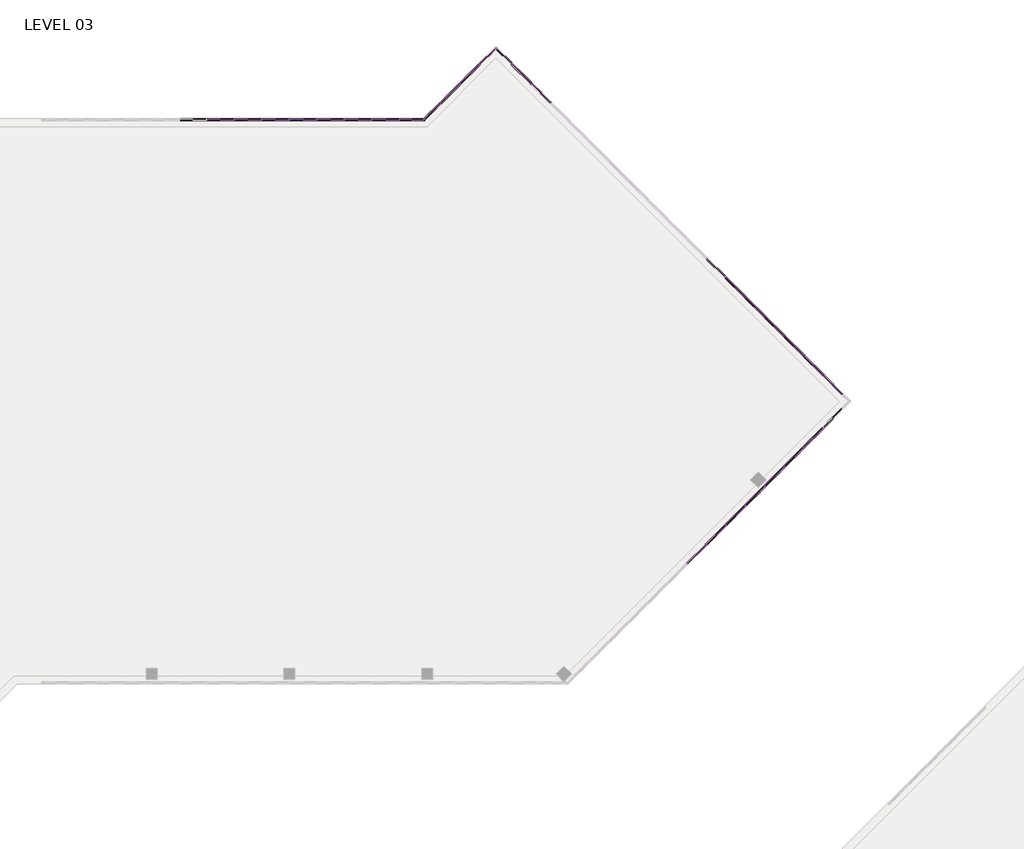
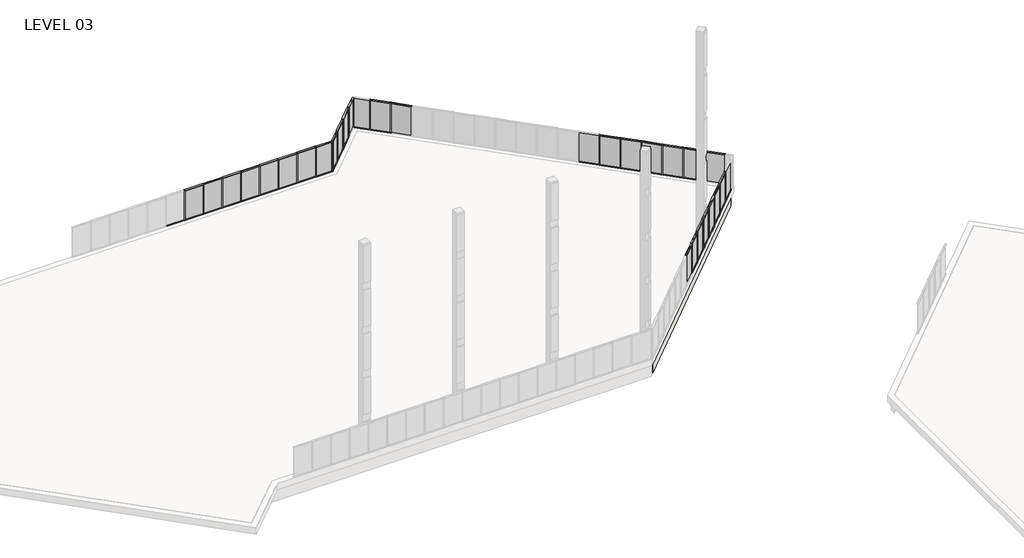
# One storey, part 15 of 18: 82 members, 30 plates, 2 walls.
"""IFC4 building model written with IfcOpenShell, lengths in millimetres."""

from ifc_helpers import new_model, si_unit, origin, place, context, project, spatial, faceted_brep, transform, mapped, element, save
from components import member_5247f267, member_e44af9ab, member_800970d4, member_45eb7f2e, member_53409b32, member_43bac76b, member_0b71a88d, plate_67294edd, plate_048e4634, plate_aaac5d3d, plate_9c66726c, plate_e0fd5134, plate_62af1d3c, plate_903242d9, plate_0d1907f3, plate_15429445

model = new_model("IFC4")

# Units and contexts
model_context = context("Model", 3, world=origin())
ifc_project = project(units=[si_unit("LENGTHUNIT", "METRE", prefix="MILLI")], contexts=[model_context])

# Site, building, storey
site = spatial("IfcSite", under=ifc_project)
building = spatial("IfcBuilding", under=site)
storey = spatial("IfcBuildingStorey", under=building, Name="LEVEL 03", Elevation=8280.4)

# Members
placement = place(None, origin())
member_shape = member_5247f267(model_context)
element("IfcMember", 1, ObjectType="Rectangular Mullion : 2\" x 4.5\" rectangular", at=placement, inside=storey, context=model_context, shape_type="MappedRepresentation", body=[
    mapped(member_shape, transform((56719.8907816, 96634.0369509, 8280.4), x_axis=(0.0, 0.0, -1.0), y_axis=(0.7071067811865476, -0.7071067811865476, 0.0), z_axis=(-0.7071067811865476, -0.7071067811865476, 0.0))),
])
element("IfcMember", 2, ObjectType="Rectangular Mullion : 2\" x 4.5\" rectangular", at=placement, inside=storey, context=model_context, shape_type="MappedRepresentation", body=[
    mapped(member_shape, transform((57797.5067145, 97711.6528837, 8280.4), x_axis=(0.0, 0.0, -1.0), y_axis=(0.7071067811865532, -0.7071067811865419, 0.0), z_axis=(-0.7071067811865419, -0.7071067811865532, 0.0))),
])
element("IfcMember", 3, ObjectType="Rectangular Mullion : 2\" x 4.5\" rectangular", at=placement, inside=storey, context=model_context, shape_type="MappedRepresentation", body=[
    mapped(member_shape, transform((58875.1226473, 98789.2688165, 8280.4), x_axis=(0.0, 0.0, -1.0), y_axis=(0.7071067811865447, -0.7071067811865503, 0.0), z_axis=(-0.7071067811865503, -0.7071067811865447, 0.0))),
])
element("IfcMember", 4, ObjectType="Rectangular Mullion : 2\" x 4.5\" rectangular", at=placement, inside=storey, context=model_context, shape_type="MappedRepresentation", body=[
    mapped(member_shape, transform((61030.3693146, 100944.5154839, 8280.4), x_axis=(0.0, 0.0, -1.0), y_axis=(0.7071067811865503, -0.7071067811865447, 0.0), z_axis=(-0.7071067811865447, -0.7071067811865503, 0.0))),
])
element("IfcMember", 5, ObjectType="Rectangular Mullion : 2\" x 4.5\" rectangular", at=placement, inside=storey, context=model_context, shape_type="MappedRepresentation", body=[
    mapped(member_shape, transform((62072.0790246, 107097.5294159, 8280.4), x_axis=(0.0, 0.0, -1.0), y_axis=(0.7071067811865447, 0.7071067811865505, 0.0), z_axis=(0.7071067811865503, -0.7071067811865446, 0.0))),
])
element("IfcMember", 6, ObjectType="Rectangular Mullion : 2\" x 4.5\" rectangular", at=placement, inside=storey, context=model_context, shape_type="MappedRepresentation", body=[
    mapped(member_shape, transform((60994.4482901, 108175.1601505, 8280.4), x_axis=(0.0, 0.0, -1.0), y_axis=(0.7071067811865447, 0.7071067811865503, 0.0), z_axis=(0.7071067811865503, -0.7071067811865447, 0.0))),
])
element("IfcMember", 7, ObjectType="Rectangular Mullion : 2\" x 4.5\" rectangular", at=placement, inside=storey, context=model_context, shape_type="MappedRepresentation", body=[
    mapped(member_shape, transform((58839.2225556, 110330.385885, 8280.4), x_axis=(0.0, 0.0, -1.0), y_axis=(0.7071067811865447, 0.7071067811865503, 0.0), z_axis=(0.7071067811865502, -0.7071067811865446, 0.0))),
])
element("IfcMember", 8, ObjectType="Rectangular Mullion : 2\" x 4.5\" rectangular", at=placement, inside=storey, context=model_context, shape_type="MappedRepresentation", body=[
    mapped(member_shape, transform((57761.6275556, 111407.980885, 8280.4), x_axis=(0.0, 0.0, -1.0), y_axis=(0.7071067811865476, 0.7071067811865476, 0.0), z_axis=(0.7071067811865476, -0.7071067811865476, 0.0))),
])
element("IfcMember", 9, ObjectType="Rectangular Mullion : 2\" x 4.5\" rectangular", at=placement, inside=storey, context=model_context, shape_type="MappedRepresentation", body=[
    mapped(member_shape, transform((43059.572889, 122097.2813296, 8280.4), x_axis=(0.0, 0.0, -1.0), y_axis=(-0.7071067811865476, 0.7071067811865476, 0.0), z_axis=(0.7071067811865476, 0.7071067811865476, 0.0))),
])
element("IfcMember", 10, ObjectType="Rectangular Mullion : 2\" x 4.5\" rectangular", at=placement, inside=storey, context=model_context, shape_type="MappedRepresentation", body=[
    mapped(member_shape, transform((39706.55, 120127.9523049, 8280.4), x_axis=(0.0, 0.0, -1.0), y_axis=(0.0, 1.0, 0.0), z_axis=(1.0, 0.0, 0.0))),
])
element("IfcMember", 11, ObjectType="Rectangular Mullion : 2\" x 4.5\" rectangular", at=placement, inside=storey, context=model_context, shape_type="MappedRepresentation", body=[
    mapped(member_shape, transform((38182.55, 120127.9523049, 8280.4), x_axis=(0.0, 0.0, -1.0), y_axis=(0.0, 1.0, 0.0), z_axis=(1.0, 0.0, 0.0))),
])
element("IfcMember", 12, ObjectType="Rectangular Mullion : 2\" x 4.5\" rectangular", at=placement, inside=storey, context=model_context, shape_type="MappedRepresentation", body=[
    mapped(member_shape, transform((36658.55, 120127.9523049, 8280.4), x_axis=(0.0, 0.0, -1.0), y_axis=(0.0, 1.0, 0.0), z_axis=(1.0, 0.0, 0.0))),
])
element("IfcMember", 13, ObjectType="Rectangular Mullion : 2\" x 4.5\" rectangular", at=placement, inside=storey, context=model_context, shape_type="MappedRepresentation", body=[
    mapped(member_shape, transform((30562.55, 120127.9523049, 8280.4), x_axis=(0.0, 0.0, -1.0), y_axis=(0.0, 1.0, 0.0), z_axis=(1.0, 0.0, 0.0))),
])
element("IfcMember", 14, ObjectType="Rectangular Mullion : 2\" x 4.5\" rectangular", at=placement, inside=storey, context=model_context, shape_type="MappedRepresentation", body=[
    mapped(member_shape, transform((29038.55, 120127.9523049, 8280.4), x_axis=(0.0, 0.0, -1.0), y_axis=(0.0, 1.0, 0.0), z_axis=(1.0, 0.0, 0.0))),
])
element("IfcMember", 15, ObjectType="Rectangular Mullion : 2\" x 4.5\" rectangular", at=placement, inside=storey, context=model_context, shape_type="MappedRepresentation", body=[
    mapped(member_shape, transform((35134.55, 120127.9523049, 8280.4), x_axis=(0.0, 0.0, -1.0), y_axis=(0.0, 1.0, 0.0), z_axis=(1.0, 0.0, 0.0))),
])
element("IfcMember", 16, ObjectType="Rectangular Mullion : 2\" x 4.5\" rectangular", at=placement, inside=storey, context=model_context, shape_type="MappedRepresentation", body=[
    mapped(member_shape, transform((32086.55, 120127.9523049, 8280.4), x_axis=(0.0, 0.0, -1.0), y_axis=(0.0, 1.0, 0.0), z_axis=(1.0, 0.0, 0.0))),
])
element("IfcMember", 17, ObjectType="Rectangular Mullion : 2\" x 4.5\" rectangular", at=placement, inside=storey, context=model_context, shape_type="MappedRepresentation", body=[
    mapped(member_shape, transform((33610.55, 120127.9523049, 8280.4), x_axis=(0.0, 0.0, -1.0), y_axis=(0.0, 1.0, 0.0), z_axis=(1.0, 0.0, 0.0))),
])
element("IfcMember", 18, ObjectType="Rectangular Mullion : 2\" x 4.5\" rectangular", at=placement, inside=storey, context=model_context, shape_type="MappedRepresentation", body=[
    mapped(member_shape, transform((59952.7459809, 99866.8921502, 8280.4), x_axis=(0.0, 0.0, -1.0), y_axis=(0.7071067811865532, -0.7071067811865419, 0.0), z_axis=(-0.7071067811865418, -0.7071067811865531, 0.0))),
])
element("IfcMember", 19, ObjectType="Rectangular Mullion : 2\" x 4.5\" rectangular", at=placement, inside=storey, context=model_context, shape_type="MappedRepresentation", body=[
    mapped(member_shape, transform((62108.0000491, 102022.1462184, 8280.4), x_axis=(0.0, 0.0, -1.0), y_axis=(0.7071067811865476, -0.7071067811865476, 0.0), z_axis=(-0.7071067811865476, -0.7071067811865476, 0.0))),
])
element("IfcMember", 20, ObjectType="Rectangular Mullion : 2\" x 4.5\" rectangular", at=placement, inside=storey, context=model_context, shape_type="MappedRepresentation", body=[
    mapped(member_shape, transform((63185.6307836, 103099.7769529, 8280.4), x_axis=(0.0, 0.0, -1.0), y_axis=(0.7071067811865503, -0.7071067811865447, 0.0), z_axis=(-0.7071067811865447, -0.7071067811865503, 0.0))),
])
element("IfcMember", 21, ObjectType="Rectangular Mullion : 2\" x 4.5\" rectangular", at=placement, inside=storey, context=model_context, shape_type="MappedRepresentation", body=[
    mapped(member_shape, transform((63149.7097592, 106019.8986814, 8280.4), x_axis=(0.0, 0.0, -1.0), y_axis=(0.7071067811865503, 0.7071067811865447, 0.0), z_axis=(0.7071067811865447, -0.7071067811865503, 0.0))),
])
element("IfcMember", 22, ObjectType="Rectangular Mullion : 2\" x 4.5\" rectangular", at=placement, inside=storey, context=model_context, shape_type="MappedRepresentation", body=[
    mapped(member_shape, transform((59916.8354228, 109252.7730177, 8280.4), x_axis=(0.0, 0.0, -1.0), y_axis=(0.7071067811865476, 0.7071067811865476, 0.0), z_axis=(0.7071067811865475, -0.7071067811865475, 0.0))),
])
element("IfcMember", 23, ObjectType="Rectangular Mullion : 2\" x 4.5\" rectangular", at=placement, inside=storey, context=model_context, shape_type="MappedRepresentation", body=[
    mapped(member_shape, transform((47009.3767128, 122160.2317277, 8280.4), x_axis=(0.0, 0.0, -1.0), y_axis=(0.7071067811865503, 0.7071067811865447, 0.0), z_axis=(0.7071067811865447, -0.7071067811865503, 0.0))),
])
element("IfcMember", 24, ObjectType="Rectangular Mullion : 2\" x 4.5\" rectangular", at=placement, inside=storey, context=model_context, shape_type="MappedRepresentation", body=[
    mapped(member_shape, transform((44137.2036235, 123174.9120641, 8280.4), x_axis=(0.0, 0.0, -1.0), y_axis=(-0.7071067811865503, 0.7071067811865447, 0.0), z_axis=(0.7071067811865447, 0.7071067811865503, 0.0))),
])
element("IfcMember", 25, ObjectType="Rectangular Mullion : 2\" x 4.5\" rectangular", at=placement, inside=storey, context=model_context, shape_type="MappedRepresentation", body=[
    mapped(member_shape, transform((56683.9697572, 96598.1159265, 10871.2), x_axis=(0.0, 0.0, 1.0), y_axis=(0.7071067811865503, -0.7071067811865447, 0.0), z_axis=(0.7071067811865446, 0.7071067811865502, 0.0))),
])
element("IfcMember", 26, ObjectType="Rectangular Mullion : 2\" x 4.5\" rectangular", at=placement, inside=storey, context=model_context, shape_type="MappedRepresentation", body=[
    mapped(member_shape, transform((57761.58569, 97675.7318593, 10871.2), x_axis=(0.0, 0.0, 1.0), y_axis=(0.7071067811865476, -0.7071067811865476, 0.0), z_axis=(0.7071067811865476, 0.7071067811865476, 0.0))),
])
element("IfcMember", 27, ObjectType="Rectangular Mullion : 2\" x 4.5\" rectangular", at=placement, inside=storey, context=model_context, shape_type="MappedRepresentation", body=[
    mapped(member_shape, transform((58839.2016228, 98753.3477921, 10871.2), x_axis=(0.0, 0.0, 1.0), y_axis=(0.7071067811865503, -0.7071067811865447, 0.0), z_axis=(0.7071067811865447, 0.7071067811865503, 0.0))),
])
element("IfcMember", 28, ObjectType="Rectangular Mullion : 2\" x 4.5\" rectangular", at=placement, inside=storey, context=model_context, shape_type="MappedRepresentation", body=[
    mapped(member_shape, transform((60994.4482901, 100908.5944594, 10871.2), x_axis=(0.0, 0.0, 1.0), y_axis=(0.7071067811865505, -0.7071067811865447, 0.0), z_axis=(0.7071067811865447, 0.7071067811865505, 0.0))),
])
element("IfcMember", 29, ObjectType="Rectangular Mullion : 2\" x 4.5\" rectangular", at=placement, inside=storey, context=model_context, shape_type="MappedRepresentation", body=[
    mapped(member_shape, transform((62108.0000491, 107061.6083914, 10871.2), x_axis=(0.0, 0.0, 1.0), y_axis=(0.7071067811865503, 0.7071067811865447, 0.0), z_axis=(-0.7071067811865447, 0.7071067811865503, 0.0))),
])
element("IfcMember", 30, ObjectType="Rectangular Mullion : 2\" x 4.5\" rectangular", at=placement, inside=storey, context=model_context, shape_type="MappedRepresentation", body=[
    mapped(member_shape, transform((61030.3693146, 108139.239126, 10871.2), x_axis=(0.0, 0.0, 1.0), y_axis=(0.7071067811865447, 0.7071067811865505, 0.0), z_axis=(-0.7071067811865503, 0.7071067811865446, 0.0))),
])
element("IfcMember", 31, ObjectType="Rectangular Mullion : 2\" x 4.5\" rectangular", at=placement, inside=storey, context=model_context, shape_type="MappedRepresentation", body=[
    mapped(member_shape, transform((58875.1435801, 110294.4648605, 10871.2), x_axis=(0.0, 0.0, 1.0), y_axis=(0.7071067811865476, 0.7071067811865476, 0.0), z_axis=(-0.7071067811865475, 0.7071067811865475, 0.0))),
])
element("IfcMember", 32, ObjectType="Rectangular Mullion : 2\" x 4.5\" rectangular", at=placement, inside=storey, context=model_context, shape_type="MappedRepresentation", body=[
    mapped(member_shape, transform((57797.5485801, 111372.0598605, 10871.2), x_axis=(0.0, 0.0, 1.0), y_axis=(0.7071067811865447, 0.7071067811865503, 0.0), z_axis=(-0.7071067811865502, 0.7071067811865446, 0.0))),
])
element("IfcMember", 33, ObjectType="Rectangular Mullion : 2\" x 4.5\" rectangular", at=placement, inside=storey, context=model_context, shape_type="MappedRepresentation", body=[
    mapped(member_shape, transform((43095.4939135, 122133.202354, 10871.2), x_axis=(0.0, 0.0, 1.0), y_axis=(-0.7071067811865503, 0.7071067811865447, 0.0), z_axis=(-0.7071067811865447, -0.7071067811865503, 0.0))),
])
element("IfcMember", 34, ObjectType="Rectangular Mullion : 2\" x 4.5\" rectangular", at=placement, inside=storey, context=model_context, shape_type="MappedRepresentation", body=[
    mapped(member_shape, transform((42017.863179, 121055.5716195, 10871.2), x_axis=(0.0, 0.0, 1.0), y_axis=(-0.7071067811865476, 0.7071067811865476, 0.0), z_axis=(-0.7071067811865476, -0.7071067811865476, 0.0))),
])
element("IfcMember", 35, ObjectType="Rectangular Mullion : 2\" x 4.5\" rectangular", at=placement, inside=storey, context=model_context, shape_type="MappedRepresentation", body=[
    mapped(member_shape, transform((38233.35, 120127.9523049, 10871.2), x_axis=(0.0, 0.0, 1.0), y_axis=(0.0, 1.0, 0.0), z_axis=(-1.0, 0.0, 0.0))),
])
element("IfcMember", 36, ObjectType="Rectangular Mullion : 2\" x 4.5\" rectangular", at=placement, inside=storey, context=model_context, shape_type="MappedRepresentation", body=[
    mapped(member_shape, transform((36709.35, 120127.9523049, 10871.2), x_axis=(0.0, 0.0, 1.0), y_axis=(0.0, 1.0, 0.0), z_axis=(-1.0, 0.0, 0.0))),
])
element("IfcMember", 37, ObjectType="Rectangular Mullion : 2\" x 4.5\" rectangular", at=placement, inside=storey, context=model_context, shape_type="MappedRepresentation", body=[
    mapped(member_shape, transform((30613.35, 120127.9523049, 10871.2), x_axis=(0.0, 0.0, 1.0), y_axis=(0.0, 1.0, 0.0), z_axis=(-1.0, 0.0, 0.0))),
])
element("IfcMember", 38, ObjectType="Rectangular Mullion : 2\" x 4.5\" rectangular", at=placement, inside=storey, context=model_context, shape_type="MappedRepresentation", body=[
    mapped(member_shape, transform((29089.35, 120127.9523049, 10871.2), x_axis=(0.0, 0.0, 1.0), y_axis=(0.0, 1.0, 0.0), z_axis=(-1.0, 0.0, 0.0))),
])
element("IfcMember", 39, ObjectType="Rectangular Mullion : 2\" x 4.5\" rectangular", at=placement, inside=storey, context=model_context, shape_type="MappedRepresentation", body=[
    mapped(member_shape, transform((35185.35, 120127.9523049, 10871.2), x_axis=(0.0, 0.0, 1.0), y_axis=(0.0, 1.0, 0.0), z_axis=(-1.0, 0.0, 0.0))),
])
element("IfcMember", 40, ObjectType="Rectangular Mullion : 2\" x 4.5\" rectangular", at=placement, inside=storey, context=model_context, shape_type="MappedRepresentation", body=[
    mapped(member_shape, transform((32137.35, 120127.9523049, 10871.2), x_axis=(0.0, 0.0, 1.0), y_axis=(0.0, 1.0, 0.0), z_axis=(-1.0, 0.0, 0.0))),
])
element("IfcMember", 41, ObjectType="Rectangular Mullion : 2\" x 4.5\" rectangular", at=placement, inside=storey, context=model_context, shape_type="MappedRepresentation", body=[
    mapped(member_shape, transform((33661.35, 120127.9523049, 10871.2), x_axis=(0.0, 0.0, 1.0), y_axis=(0.0, 1.0, 0.0), z_axis=(-1.0, 0.0, 0.0))),
])
element("IfcMember", 42, ObjectType="Rectangular Mullion : 2\" x 4.5\" rectangular", at=placement, inside=storey, context=model_context, shape_type="MappedRepresentation", body=[
    mapped(member_shape, transform((59916.8249564, 99830.9711257, 10871.2), x_axis=(0.0, 0.0, 1.0), y_axis=(0.7071067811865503, -0.7071067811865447, 0.0), z_axis=(0.7071067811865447, 0.7071067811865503, 0.0))),
])
element("IfcMember", 43, ObjectType="Rectangular Mullion : 2\" x 4.5\" rectangular", at=placement, inside=storey, context=model_context, shape_type="MappedRepresentation", body=[
    mapped(member_shape, transform((62072.0790246, 101986.2251939, 10871.2), x_axis=(0.0, 0.0, 1.0), y_axis=(0.7071067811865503, -0.7071067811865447, 0.0), z_axis=(0.7071067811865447, 0.7071067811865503, 0.0))),
])
element("IfcMember", 44, ObjectType="Rectangular Mullion : 2\" x 4.5\" rectangular", at=placement, inside=storey, context=model_context, shape_type="MappedRepresentation", body=[
    mapped(member_shape, transform((63149.7097592, 103063.8559285, 10871.2), x_axis=(0.0, 0.0, 1.0), y_axis=(0.7071067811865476, -0.7071067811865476, 0.0), z_axis=(0.7071067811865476, 0.7071067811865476, 0.0))),
])
element("IfcMember", 45, ObjectType="Rectangular Mullion : 2\" x 4.5\" rectangular", at=placement, inside=storey, context=model_context, shape_type="MappedRepresentation", body=[
    mapped(member_shape, transform((63185.6307836, 105983.9776569, 10871.2), x_axis=(0.0, 0.0, 1.0), y_axis=(0.7071067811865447, 0.7071067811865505, 0.0), z_axis=(-0.7071067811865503, 0.7071067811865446, 0.0))),
])
element("IfcMember", 46, ObjectType="Rectangular Mullion : 2\" x 4.5\" rectangular", at=placement, inside=storey, context=model_context, shape_type="MappedRepresentation", body=[
    mapped(member_shape, transform((59952.7564473, 109216.8519932, 10871.2), x_axis=(0.0, 0.0, 1.0), y_axis=(0.7071067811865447, 0.7071067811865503, 0.0), z_axis=(-0.7071067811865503, 0.7071067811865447, 0.0))),
])
element("IfcMember", 47, ObjectType="Rectangular Mullion : 2\" x 4.5\" rectangular", at=placement, inside=storey, context=model_context, shape_type="MappedRepresentation", body=[
    mapped(member_shape, transform((47045.2977373, 122124.3107033, 10871.2), x_axis=(0.0, 0.0, 1.0), y_axis=(0.7071067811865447, 0.7071067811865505, 0.0), z_axis=(-0.7071067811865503, 0.7071067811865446, 0.0))),
])
element("IfcMember", 48, ObjectType="Rectangular Mullion : 2\" x 4.5\" rectangular", at=placement, inside=storey, context=model_context, shape_type="MappedRepresentation", body=[
    mapped(member_shape, transform((45967.6670028, 123201.9414378, 10871.2), x_axis=(0.0, 0.0, 1.0), y_axis=(0.7071067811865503, 0.7071067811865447, 0.0), z_axis=(-0.7071067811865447, 0.7071067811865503, 0.0))),
])
member_2_shape = member_e44af9ab(model_context)
element("IfcMember", 49, ObjectType="Rectangular Mullion : 2\" x 4.5\" rectangular", at=placement, inside=storey, context=model_context, shape_type="MappedRepresentation", body=[
    mapped(member_2_shape, transform((56701.9302694, 96616.0764387, 8280.4), x_axis=(0.7071067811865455, 0.7071067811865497, 0.0), y_axis=(0.7071067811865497, -0.7071067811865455, 0.0), z_axis=(0.0, 0.0, -1.0))),
])
element("IfcMember", 50, ObjectType="Rectangular Mullion : 2\" x 4.5\" rectangular", at=placement, inside=storey, context=model_context, shape_type="MappedRepresentation", body=[
    mapped(member_2_shape, transform((57779.5462022, 97693.6923715, 8280.4), x_axis=(0.7071067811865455, 0.7071067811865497, 0.0), y_axis=(0.7071067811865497, -0.7071067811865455, 0.0), z_axis=(0.0, 0.0, -1.0))),
])
element("IfcMember", 51, ObjectType="Rectangular Mullion : 2\" x 4.5\" rectangular", at=placement, inside=storey, context=model_context, shape_type="MappedRepresentation", body=[
    mapped(member_2_shape, transform((58857.162135, 98771.3083043, 8280.4), x_axis=(0.7071067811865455, 0.7071067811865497, 0.0), y_axis=(0.7071067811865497, -0.7071067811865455, 0.0), z_axis=(0.0, 0.0, -1.0))),
])
element("IfcMember", 52, ObjectType="Rectangular Mullion : 2\" x 4.5\" rectangular", at=placement, inside=storey, context=model_context, shape_type="MappedRepresentation", body=[
    mapped(member_2_shape, transform((61012.4088023, 100926.5549716, 8280.4), x_axis=(0.7071067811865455, 0.7071067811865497, 0.0), y_axis=(0.7071067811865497, -0.7071067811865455, 0.0), z_axis=(0.0, 0.0, -1.0))),
])
element("IfcMember", 53, ObjectType="Rectangular Mullion : 2\" x 4.5\" rectangular", at=placement, inside=storey, context=model_context, shape_type="MappedRepresentation", body=[
    mapped(member_2_shape, transform((62090.0395369, 107079.5689037, 8280.4), x_axis=(-0.7071067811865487, 0.7071067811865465, 0.0), y_axis=(0.7071067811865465, 0.7071067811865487, 0.0), z_axis=(0.0, 0.0, -1.0))),
])
element("IfcMember", 54, ObjectType="Rectangular Mullion : 2\" x 4.5\" rectangular", at=placement, inside=storey, context=model_context, shape_type="MappedRepresentation", body=[
    mapped(member_2_shape, transform((61012.4088023, 108157.1996382, 8280.4), x_axis=(-0.7071067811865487, 0.7071067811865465, 0.0), y_axis=(0.7071067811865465, 0.7071067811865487, 0.0), z_axis=(0.0, 0.0, -1.0))),
])
element("IfcMember", 55, ObjectType="Rectangular Mullion : 2\" x 4.5\" rectangular", at=placement, inside=storey, context=model_context, shape_type="MappedRepresentation", body=[
    mapped(member_2_shape, transform((58857.1830678, 110312.4253727, 8280.4), x_axis=(-0.7071067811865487, 0.7071067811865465, 0.0), y_axis=(0.7071067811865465, 0.7071067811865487, 0.0), z_axis=(0.0, 0.0, -1.0))),
])
element("IfcMember", 56, ObjectType="Rectangular Mullion : 2\" x 4.5\" rectangular", at=placement, inside=storey, context=model_context, shape_type="MappedRepresentation", body=[
    mapped(member_2_shape, transform((57779.5880678, 111390.0203727, 8280.4), x_axis=(-0.7071067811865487, 0.7071067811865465, 0.0), y_axis=(0.7071067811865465, 0.7071067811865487, 0.0), z_axis=(0.0, 0.0, -1.0))),
])
element("IfcMember", 57, ObjectType="Rectangular Mullion : 2\" x 4.5\" rectangular", at=placement, inside=storey, context=model_context, shape_type="MappedRepresentation", body=[
    mapped(member_2_shape, transform((43077.5334012, 122115.2418418, 8280.4), x_axis=(-0.7071067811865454, -0.7071067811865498, 0.0), y_axis=(-0.7071067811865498, 0.7071067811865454, 0.0), z_axis=(0.0, 0.0, -1.0))),
])
element("IfcMember", 58, ObjectType="Rectangular Mullion : 2\" x 4.5\" rectangular", at=placement, inside=storey, context=model_context, shape_type="MappedRepresentation", body=[
    mapped(member_2_shape, transform((41999.9026667, 121037.6111073, 8280.4), x_axis=(-0.7071067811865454, -0.7071067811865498, 0.0), y_axis=(-0.7071067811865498, 0.7071067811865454, 0.0), z_axis=(0.0, 0.0, -1.0))),
])
element("IfcMember", 59, ObjectType="Rectangular Mullion : 2\" x 4.5\" rectangular", at=placement, inside=storey, context=model_context, shape_type="MappedRepresentation", body=[
    mapped(member_2_shape, transform((39731.95, 120127.9523049, 8280.4), x_axis=(-1.0, 0.0, 0.0), y_axis=(0.0, 1.0, 0.0), z_axis=(0.0, 0.0, -1.0))),
])
element("IfcMember", 60, ObjectType="Rectangular Mullion : 2\" x 4.5\" rectangular", at=placement, inside=storey, context=model_context, shape_type="MappedRepresentation", body=[
    mapped(member_2_shape, transform((38207.95, 120127.9523049, 8280.4), x_axis=(-1.0, 0.0, 0.0), y_axis=(0.0, 1.0, 0.0), z_axis=(0.0, 0.0, -1.0))),
])
element("IfcMember", 61, ObjectType="Rectangular Mullion : 2\" x 4.5\" rectangular", at=placement, inside=storey, context=model_context, shape_type="MappedRepresentation", body=[
    mapped(member_2_shape, transform((36683.95, 120127.9523049, 8280.4), x_axis=(-1.0, 0.0, 0.0), y_axis=(0.0, 1.0, 0.0), z_axis=(0.0, 0.0, -1.0))),
])
element("IfcMember", 62, ObjectType="Rectangular Mullion : 2\" x 4.5\" rectangular", at=placement, inside=storey, context=model_context, shape_type="MappedRepresentation", body=[
    mapped(member_2_shape, transform((30587.95, 120127.9523049, 8280.4), x_axis=(-1.0, 0.0, 0.0), y_axis=(0.0, 1.0, 0.0), z_axis=(0.0, 0.0, -1.0))),
])
element("IfcMember", 63, ObjectType="Rectangular Mullion : 2\" x 4.5\" rectangular", at=placement, inside=storey, context=model_context, shape_type="MappedRepresentation", body=[
    mapped(member_2_shape, transform((29063.95, 120127.9523049, 8280.4), x_axis=(-1.0, 0.0, 0.0), y_axis=(0.0, 1.0, 0.0), z_axis=(0.0, 0.0, -1.0))),
])
element("IfcMember", 64, ObjectType="Rectangular Mullion : 2\" x 4.5\" rectangular", at=placement, inside=storey, context=model_context, shape_type="MappedRepresentation", body=[
    mapped(member_2_shape, transform((35159.95, 120127.9523049, 8280.4), x_axis=(-1.0, 0.0, 0.0), y_axis=(0.0, 1.0, 0.0), z_axis=(0.0, 0.0, -1.0))),
])
element("IfcMember", 65, ObjectType="Rectangular Mullion : 2\" x 4.5\" rectangular", at=placement, inside=storey, context=model_context, shape_type="MappedRepresentation", body=[
    mapped(member_2_shape, transform((32111.95, 120127.9523049, 8280.4), x_axis=(-1.0, 0.0, 0.0), y_axis=(0.0, 1.0, 0.0), z_axis=(0.0, 0.0, -1.0))),
])
element("IfcMember", 66, ObjectType="Rectangular Mullion : 2\" x 4.5\" rectangular", at=placement, inside=storey, context=model_context, shape_type="MappedRepresentation", body=[
    mapped(member_2_shape, transform((33635.95, 120127.9523049, 8280.4), x_axis=(-1.0, 0.0, 0.0), y_axis=(0.0, 1.0, 0.0), z_axis=(0.0, 0.0, -1.0))),
])
element("IfcMember", 67, ObjectType="Rectangular Mullion : 2\" x 4.5\" rectangular", at=placement, inside=storey, context=model_context, shape_type="MappedRepresentation", body=[
    mapped(member_2_shape, transform((59934.7854687, 99848.931638, 8280.4), x_axis=(0.7071067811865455, 0.7071067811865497, 0.0), y_axis=(0.7071067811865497, -0.7071067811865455, 0.0), z_axis=(0.0, 0.0, -1.0))),
])
element("IfcMember", 68, ObjectType="Rectangular Mullion : 2\" x 4.5\" rectangular", at=placement, inside=storey, context=model_context, shape_type="MappedRepresentation", body=[
    mapped(member_2_shape, transform((62090.0395369, 102004.1857062, 8280.4), x_axis=(0.7071067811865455, 0.7071067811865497, 0.0), y_axis=(0.7071067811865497, -0.7071067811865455, 0.0), z_axis=(0.0, 0.0, -1.0))),
])
element("IfcMember", 69, ObjectType="Rectangular Mullion : 2\" x 4.5\" rectangular", at=placement, inside=storey, context=model_context, shape_type="MappedRepresentation", body=[
    mapped(member_2_shape, transform((63167.6702714, 103081.8164407, 8280.4), x_axis=(0.7071067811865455, 0.7071067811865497, 0.0), y_axis=(0.7071067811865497, -0.7071067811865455, 0.0), z_axis=(0.0, 0.0, -1.0))),
])
element("IfcMember", 70, ObjectType="Rectangular Mullion : 2\" x 4.5\" rectangular", at=placement, inside=storey, context=model_context, shape_type="MappedRepresentation", body=[
    mapped(member_2_shape, transform((63167.6702714, 106001.9381692, 8280.4), x_axis=(-0.7071067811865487, 0.7071067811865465, 0.0), y_axis=(0.7071067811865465, 0.7071067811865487, 0.0), z_axis=(0.0, 0.0, -1.0))),
])
element("IfcMember", 71, ObjectType="Rectangular Mullion : 2\" x 4.5\" rectangular", at=placement, inside=storey, context=model_context, shape_type="MappedRepresentation", body=[
    mapped(member_2_shape, transform((59934.7959351, 109234.8125055, 8280.4), x_axis=(-0.7071067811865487, 0.7071067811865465, 0.0), y_axis=(0.7071067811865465, 0.7071067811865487, 0.0), z_axis=(0.0, 0.0, -1.0))),
])
element("IfcMember", 72, ObjectType="Rectangular Mullion : 2\" x 4.5\" rectangular", at=placement, inside=storey, context=model_context, shape_type="MappedRepresentation", body=[
    mapped(member_2_shape, transform((47027.3372251, 122142.2712155, 8280.4), x_axis=(-0.7071067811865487, 0.7071067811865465, 0.0), y_axis=(0.7071067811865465, 0.7071067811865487, 0.0), z_axis=(0.0, 0.0, -1.0))),
])
element("IfcMember", 73, ObjectType="Rectangular Mullion : 2\" x 4.5\" rectangular", at=placement, inside=storey, context=model_context, shape_type="MappedRepresentation", body=[
    mapped(member_2_shape, transform((45949.7064905, 123219.90195, 8280.4), x_axis=(-0.7071067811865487, 0.7071067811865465, 0.0), y_axis=(0.7071067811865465, 0.7071067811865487, 0.0), z_axis=(0.0, 0.0, -1.0))),
])
element("IfcMember", 74, ObjectType="Rectangular Mullion : 2\" x 4.5\" rectangular", at=placement, inside=storey, context=model_context, shape_type="MappedRepresentation", body=[
    mapped(member_2_shape, transform((44155.1641358, 123192.8725763, 8280.4), x_axis=(-0.7071067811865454, -0.7071067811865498, 0.0), y_axis=(-0.7071067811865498, 0.7071067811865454, 0.0), z_axis=(0.0, 0.0, -1.0))),
])
member_3_shape = member_800970d4(model_context)
element("IfcMember", 75, ObjectType="Rectangular Mullion : 2\" x 4.5\" rectangular", at=placement, inside=storey, context=model_context, shape_type="MappedRepresentation", body=[
    mapped(member_3_shape, transform((41090.2438644, 120127.9523049, 8280.4), x_axis=(-0.7071067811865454, -0.7071067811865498, 0.0), y_axis=(-0.7071067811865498, 0.7071067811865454, 0.0), z_axis=(0.0, 0.0, -1.0))),
])
element("IfcMember", 76, ObjectType="Rectangular Mullion : 2\" x 4.5\" rectangular", at=placement, inside=storey, context=model_context, shape_type="MappedRepresentation", body=[
    mapped(member_3_shape, transform((41090.2438644, 120127.9523049, 10871.2), x_axis=(1.0, 0.0, 0.0), y_axis=(0.0, 1.0, 0.0), z_axis=(0.0, 0.0, 1.0))),
])
member_4_shape = member_45eb7f2e(model_context)
element("IfcMember", 77, ObjectType="Rectangular Mullion : 2\" x 4.5\" rectangular", at=placement, inside=storey, context=model_context, shape_type="MappedRepresentation", body=[
    mapped(member_4_shape, transform((39757.35, 120127.9523049, 10871.2), x_axis=(0.0, 0.0, 1.0), y_axis=(0.0, 1.0, 0.0), z_axis=(-1.0, 0.0, 0.0))),
])
element("IfcMember", 78, ObjectType="Rectangular Mullion : 2\" x 4.5\" rectangular", at=placement, inside=storey, context=model_context, shape_type="MappedRepresentation", body=[
    mapped(member_4_shape, transform((41039.4438644, 120127.9523049, 8280.4), x_axis=(0.0, 0.0, -1.0), y_axis=(0.0, 1.0, 0.0), z_axis=(1.0, 0.0, 0.0))),
])
member_5_shape = member_53409b32(model_context)
element("IfcMember", 79, ObjectType="Rectangular Mullion : 2\" x 4.5\" rectangular", at=placement, inside=storey, context=model_context, shape_type="MappedRepresentation", body=[
    mapped(member_5_shape, transform((45931.7459783, 123237.8624623, 8280.4), x_axis=(0.0, 0.0, -1.0), y_axis=(0.7071067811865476, 0.7071067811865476, 0.0), z_axis=(0.7071067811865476, -0.7071067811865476, 0.0))),
])
member_6_shape = member_43bac76b(model_context)
element("IfcMember", 80, ObjectType="Rectangular Mullion : 2\" x 4.5\" rectangular", at=placement, inside=storey, context=model_context, shape_type="MappedRepresentation", body=[
    mapped(member_6_shape, transform((41126.1648889, 120163.8733294, 10871.2), x_axis=(0.0, 0.0, 1.0), y_axis=(-0.7071067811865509, 0.7071067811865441, 0.0), z_axis=(-0.7071067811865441, -0.7071067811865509, 0.0))),
])
element("IfcMember", 81, ObjectType="Rectangular Mullion : 2\" x 4.5\" rectangular", at=placement, inside=storey, context=model_context, shape_type="MappedRepresentation", body=[
    mapped(member_6_shape, transform((41981.9421545, 121019.650595, 8280.4), x_axis=(0.0, 0.0, -1.0), y_axis=(-0.7071067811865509, 0.7071067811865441, 0.0), z_axis=(0.7071067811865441, 0.7071067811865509, 0.0))),
])
member_7_shape = member_0b71a88d(model_context)
element("IfcMember", 82, ObjectType="Rectangular Mullion : 2\" x 4.5\" rectangular", at=placement, inside=storey, context=model_context, shape_type="MappedRepresentation", body=[
    mapped(member_7_shape, transform((44173.124648, 123210.8330886, 10871.2), x_axis=(0.0, 0.0, 1.0), y_axis=(-0.7071067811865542, 0.7071067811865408, 0.0), z_axis=(-0.7071067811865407, -0.7071067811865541, 0.0))),
])

# Plates
plate_shape = plate_67294edd(model_context)
element("IfcPlate", 83, ObjectType="System Panel : 1/4\" Glass", at=placement, inside=storey, context=model_context, shape_type="MappedRepresentation", body=[
    mapped(plate_shape, transform((61551.2241696, 101465.3703389, 8331.2), x_axis=(0.7071067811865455, 0.7071067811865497, 0.0), y_axis=(-0.7071067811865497, 0.7071067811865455, 0.0), z_axis=(0.0, 0.0, 1.0))),
])
element("IfcPlate", 84, ObjectType="System Panel : 1/4\" Glass", at=placement, inside=storey, context=model_context, shape_type="MappedRepresentation", body=[
    mapped(plate_shape, transform((61551.2241696, 107618.3842709, 8331.2), x_axis=(-0.7071067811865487, 0.7071067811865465, 0.0), y_axis=(-0.7071067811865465, -0.7071067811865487, 0.0), z_axis=(0.0, 0.0, 1.0))),
])
element("IfcPlate", 85, ObjectType="System Panel : 1/4\" Glass", at=placement, inside=storey, context=model_context, shape_type="MappedRepresentation", body=[
    mapped(plate_shape, transform((42538.718034, 121576.4264745, 8331.2), x_axis=(-0.7071067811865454, -0.7071067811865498, 0.0), y_axis=(0.7071067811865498, -0.7071067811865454, 0.0), z_axis=(0.0, 0.0, 1.0))),
])
element("IfcPlate", 86, ObjectType="System Panel : 1/4\" Glass", at=placement, inside=storey, context=model_context, shape_type="MappedRepresentation", body=[
    mapped(plate_shape, transform((38969.95, 120127.9523049, 8331.2), x_axis=(-1.0, 0.0, 0.0), y_axis=(0.0, -1.0, 0.0), z_axis=(0.0, 0.0, 1.0))),
])
element("IfcPlate", 87, ObjectType="System Panel : 1/4\" Glass", at=placement, inside=storey, context=model_context, shape_type="MappedRepresentation", body=[
    mapped(plate_shape, transform((37445.95, 120127.9523049, 8331.2), x_axis=(-1.0, 0.0, 0.0), y_axis=(0.0, -1.0, 0.0), z_axis=(0.0, 0.0, 1.0))),
])
element("IfcPlate", 88, ObjectType="System Panel : 1/4\" Glass", at=placement, inside=storey, context=model_context, shape_type="MappedRepresentation", body=[
    mapped(plate_shape, transform((35921.95, 120127.9523049, 8331.2), x_axis=(-1.0, 0.0, 0.0), y_axis=(0.0, -1.0, 0.0), z_axis=(0.0, 0.0, 1.0))),
])
element("IfcPlate", 89, ObjectType="System Panel : 1/4\" Glass", at=placement, inside=storey, context=model_context, shape_type="MappedRepresentation", body=[
    mapped(plate_shape, transform((29825.95, 120127.9523049, 8331.2), x_axis=(-1.0, 0.0, 0.0), y_axis=(0.0, -1.0, 0.0), z_axis=(0.0, 0.0, 1.0))),
])
element("IfcPlate", 90, ObjectType="System Panel : 1/4\" Glass", at=placement, inside=storey, context=model_context, shape_type="MappedRepresentation", body=[
    mapped(plate_shape, transform((34397.95, 120127.9523049, 8331.2), x_axis=(-1.0, 0.0, 0.0), y_axis=(0.0, -1.0, 0.0), z_axis=(0.0, 0.0, 1.0))),
])
element("IfcPlate", 91, ObjectType="System Panel : 1/4\" Glass", at=placement, inside=storey, context=model_context, shape_type="MappedRepresentation", body=[
    mapped(plate_shape, transform((31349.95, 120127.9523049, 8331.2), x_axis=(-1.0, 0.0, 0.0), y_axis=(0.0, -1.0, 0.0), z_axis=(0.0, 0.0, 1.0))),
])
element("IfcPlate", 92, ObjectType="System Panel : 1/4\" Glass", at=placement, inside=storey, context=model_context, shape_type="MappedRepresentation", body=[
    mapped(plate_shape, transform((32873.95, 120127.9523049, 8331.2), x_axis=(-1.0, 0.0, 0.0), y_axis=(0.0, -1.0, 0.0), z_axis=(0.0, 0.0, 1.0))),
])
element("IfcPlate", 93, ObjectType="System Panel : 1/4\" Glass", at=placement, inside=storey, context=model_context, shape_type="MappedRepresentation", body=[
    mapped(plate_shape, transform((62628.8549041, 102543.0010734, 8331.2), x_axis=(0.7071067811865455, 0.7071067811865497, 0.0), y_axis=(-0.7071067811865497, 0.7071067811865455, 0.0), z_axis=(0.0, 0.0, 1.0))),
])
element("IfcPlate", 94, ObjectType="System Panel : 1/4\" Glass", at=placement, inside=storey, context=model_context, shape_type="MappedRepresentation", body=[
    mapped(plate_shape, transform((63706.4856387, 103620.631808, 8331.2), x_axis=(0.7071067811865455, 0.7071067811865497, 0.0), y_axis=(-0.7071067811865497, 0.7071067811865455, 0.0), z_axis=(0.0, 0.0, 1.0))),
])
element("IfcPlate", 95, ObjectType="System Panel : 1/4\" Glass", at=placement, inside=storey, context=model_context, shape_type="MappedRepresentation", body=[
    mapped(plate_shape, transform((62628.8549041, 106540.7535364, 8331.2), x_axis=(-0.7071067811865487, 0.7071067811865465, 0.0), y_axis=(-0.7071067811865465, -0.7071067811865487, 0.0), z_axis=(0.0, 0.0, 1.0))),
])
element("IfcPlate", 96, ObjectType="System Panel : 1/4\" Glass", at=placement, inside=storey, context=model_context, shape_type="MappedRepresentation", body=[
    mapped(plate_shape, transform((63706.4856387, 105463.1228019, 8331.2), x_axis=(-0.7071067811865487, 0.7071067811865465, 0.0), y_axis=(-0.7071067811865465, -0.7071067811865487, 0.0), z_axis=(0.0, 0.0, 1.0))),
])
element("IfcPlate", 97, ObjectType="System Panel : 1/4\" Glass", at=placement, inside=storey, context=model_context, shape_type="MappedRepresentation", body=[
    mapped(plate_shape, transform((47566.1525923, 121603.4558482, 8331.2), x_axis=(-0.7071067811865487, 0.7071067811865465, 0.0), y_axis=(-0.7071067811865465, -0.7071067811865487, 0.0), z_axis=(0.0, 0.0, 1.0))),
])
element("IfcPlate", 98, ObjectType="System Panel : 1/4\" Glass", at=placement, inside=storey, context=model_context, shape_type="MappedRepresentation", body=[
    mapped(plate_shape, transform((46488.5218578, 122681.0865828, 8331.2), x_axis=(-0.7071067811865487, 0.7071067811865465, 0.0), y_axis=(-0.7071067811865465, -0.7071067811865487, 0.0), z_axis=(0.0, 0.0, 1.0))),
])
element("IfcPlate", 99, ObjectType="System Panel : 1/4\" Glass", at=placement, inside=storey, context=model_context, shape_type="MappedRepresentation", body=[
    mapped(plate_shape, transform((43616.3487685, 122654.0572091, 8331.2), x_axis=(-0.7071067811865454, -0.7071067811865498, 0.0), y_axis=(0.7071067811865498, -0.7071067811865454, 0.0), z_axis=(0.0, 0.0, 1.0))),
])
plate_2_shape = plate_048e4634(model_context)
element("IfcPlate", 100, ObjectType="System Panel : 1/4\" Glass", at=placement, inside=storey, context=model_context, shape_type="MappedRepresentation", body=[
    mapped(plate_2_shape, transform((58318.3855678, 110851.2228727, 8331.2), x_axis=(-0.7071067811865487, 0.7071067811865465, 0.0), y_axis=(-0.7071067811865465, -0.7071067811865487, 0.0), z_axis=(0.0, 0.0, 1.0))),
])
element("IfcPlate", 101, ObjectType="System Panel : 1/4\" Glass", at=placement, inside=storey, context=model_context, shape_type="MappedRepresentation", body=[
    mapped(plate_2_shape, transform((57240.7905678, 111928.8178727, 8331.2), x_axis=(-0.7071067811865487, 0.7071067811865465, 0.0), y_axis=(-0.7071067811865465, -0.7071067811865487, 0.0), z_axis=(0.0, 0.0, 1.0))),
])
plate_3_shape = plate_aaac5d3d(model_context)
element("IfcPlate", 102, ObjectType="System Panel : 1/4\" Glass", at=placement, inside=storey, context=model_context, shape_type="MappedRepresentation", body=[
    mapped(plate_3_shape, transform((56163.122303, 96077.2684723, 8331.2), x_axis=(0.7071067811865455, 0.7071067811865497, 0.0), y_axis=(-0.7071067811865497, 0.7071067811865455, 0.0), z_axis=(0.0, 0.0, 1.0))),
])
element("IfcPlate", 103, ObjectType="System Panel : 1/4\" Glass", at=placement, inside=storey, context=model_context, shape_type="MappedRepresentation", body=[
    mapped(plate_3_shape, transform((57240.7382358, 97154.8844051, 8331.2), x_axis=(0.7071067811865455, 0.7071067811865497, 0.0), y_axis=(-0.7071067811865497, 0.7071067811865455, 0.0), z_axis=(0.0, 0.0, 1.0))),
])
element("IfcPlate", 104, ObjectType="System Panel : 1/4\" Glass", at=placement, inside=storey, context=model_context, shape_type="MappedRepresentation", body=[
    mapped(plate_3_shape, transform((58318.3541686, 98232.5003379, 8331.2), x_axis=(0.7071067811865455, 0.7071067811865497, 0.0), y_axis=(-0.7071067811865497, 0.7071067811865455, 0.0), z_axis=(0.0, 0.0, 1.0))),
])
plate_4_shape = plate_9c66726c(model_context)
element("IfcPlate", 105, ObjectType="System Panel : 1/4\" Glass", at=placement, inside=storey, context=model_context, shape_type="MappedRepresentation", body=[
    mapped(plate_4_shape, transform((40398.3969322, 120127.9523049, 8331.2), x_axis=(-1.0, 0.0, 0.0), y_axis=(0.0, -1.0, 0.0), z_axis=(0.0, 0.0, 1.0))),
])
plate_5_shape = plate_e0fd5134(model_context)
element("IfcPlate", 106, ObjectType="System Panel : 1/4\" Glass", at=placement, inside=storey, context=model_context, shape_type="MappedRepresentation", body=[
    mapped(plate_5_shape, transform((59395.9738018, 99310.1199711, 8331.2), x_axis=(0.7071067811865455, 0.7071067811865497, 0.0), y_axis=(-0.7071067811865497, 0.7071067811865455, 0.0), z_axis=(0.0, 0.0, 1.0))),
])
element("IfcPlate", 107, ObjectType="System Panel : 1/4\" Glass", at=placement, inside=storey, context=model_context, shape_type="MappedRepresentation", body=[
    mapped(plate_5_shape, transform((60473.5971355, 100387.7433048, 8331.2), x_axis=(0.7071067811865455, 0.7071067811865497, 0.0), y_axis=(-0.7071067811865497, 0.7071067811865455, 0.0), z_axis=(0.0, 0.0, 1.0))),
])
plate_6_shape = plate_62af1d3c(model_context)
element("IfcPlate", 108, ObjectType="System Panel : 1/4\" Glass", at=placement, inside=storey, context=model_context, shape_type="MappedRepresentation", body=[
    mapped(plate_6_shape, transform((60473.6023687, 108696.0060718, 8331.2), x_axis=(-0.7071067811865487, 0.7071067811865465, 0.0), y_axis=(-0.7071067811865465, -0.7071067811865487, 0.0), z_axis=(0.0, 0.0, 1.0))),
])
element("IfcPlate", 109, ObjectType="System Panel : 1/4\" Glass", at=placement, inside=storey, context=model_context, shape_type="MappedRepresentation", body=[
    mapped(plate_6_shape, transform((59395.9895014, 109773.6189391, 8331.2), x_axis=(-0.7071067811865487, 0.7071067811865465, 0.0), y_axis=(-0.7071067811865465, -0.7071067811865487, 0.0), z_axis=(0.0, 0.0, 1.0))),
])
plate_7_shape = plate_903242d9(model_context)
element("IfcPlate", 110, ObjectType="System Panel : 1/4\" Glass", at=placement, inside=storey, context=model_context, shape_type="MappedRepresentation", body=[
    mapped(plate_7_shape, transform((45516.8085014, 123652.7999392, 8331.2), x_axis=(-0.7071067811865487, 0.7071067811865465, 0.0), y_axis=(-0.7071067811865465, -0.7071067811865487, 0.0), z_axis=(0.0, 0.0, 1.0))),
])
plate_8_shape = plate_0d1907f3(model_context)
element("IfcPlate", 111, ObjectType="System Panel : 1/4\" Glass", at=placement, inside=storey, context=model_context, shape_type="MappedRepresentation", body=[
    mapped(plate_8_shape, transform((41554.0535217, 120591.7619622, 8331.2), x_axis=(-0.7071067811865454, -0.7071067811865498, 0.0), y_axis=(0.7071067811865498, -0.7071067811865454, 0.0), z_axis=(0.0, 0.0, 1.0))),
])
plate_9_shape = plate_15429445(model_context)
element("IfcPlate", 112, ObjectType="System Panel : 1/4\" Glass", at=placement, inside=storey, context=model_context, shape_type="MappedRepresentation", body=[
    mapped(plate_9_shape, transform((44601.5768118, 123639.2852523, 8331.2), x_axis=(-0.7071067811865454, -0.7071067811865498, 0.0), y_axis=(0.7071067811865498, -0.7071067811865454, 0.0), z_axis=(0.0, 0.0, 1.0))),
])

# Walls
element("IfcWall", 113, ObjectType="01-CONCRETE-12", at=placement, inside=storey, context=model_context, shape_type="Brep", body=[
    faceted_brep([(41539.707951, 120083.5023049, 6731.0), (45065.95, 123609.7443539, 6731.0), (45281.4761469, 123825.2705008, 6731.0), (45281.4761469, 123825.2705008, 7721.6), (45065.95, 123609.7443539, 7721.6), (41539.707951, 120083.5023049, 7721.6), (41108.6556572, 120083.5023049, 6731.0), (41108.6556572, 120083.5023049, 7721.6), (45065.95, 124040.7966477, 7721.6), (45065.95, 124040.7966477, 6731.0)], [[[0, 1, 2, 3, 4, 5]], [[6, 7, 8, 9]], [[2, 1, 0, 6, 9]], [[5, 4, 3, 8, 7]], [[0, 5, 7, 6]], [[3, 2, 9, 8]]]),
])
element("IfcWall", 114, ObjectType="01-CONCRETE-12", at=placement, inside=storey, context=model_context, shape_type="Brep", body=[
    faceted_brep([(64133.817049, 104541.8773049, 6731.0), (54604.6460245, 95012.7062804, 6731.0), (53995.0460245, 94403.1062804, 6731.0), (49246.4289755, 89654.4892315, 6731.0), (48896.992049, 89305.0523049, 6731.0), (48896.992049, 89305.0523049, 7721.6), (49246.4289755, 89654.4892315, 7721.6), (53995.0460245, 94403.1062804, 7721.6), (54604.6460245, 95012.7062804, 7721.6), (64133.817049, 104541.8773049, 7721.6), (64349.3431959, 104326.351158, 6731.0), (64349.3431959, 104326.351158, 7721.6), (49328.0443428, 89305.0523049, 7721.6), (49328.0443428, 89305.0523049, 6731.0)], [[[0, 1, 2, 3, 4, 5, 6, 7, 8, 9]], [[10, 11, 12, 13]], [[4, 3, 2, 1, 0, 10, 13]], [[9, 8, 7, 6, 5, 12, 11]], [[0, 9, 11, 10]], [[5, 4, 13, 12]]]),
])

save(model, "model.ifc")
